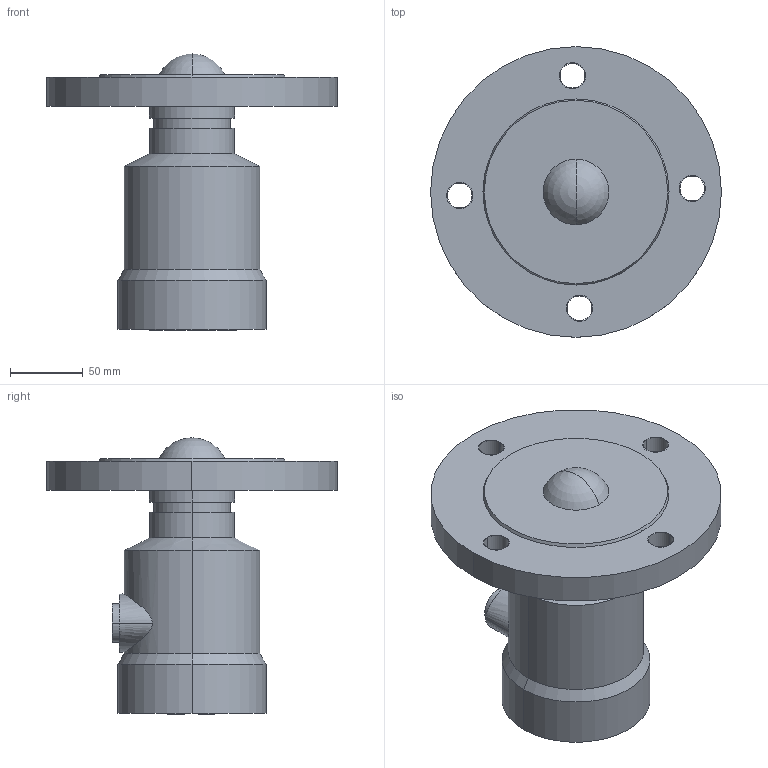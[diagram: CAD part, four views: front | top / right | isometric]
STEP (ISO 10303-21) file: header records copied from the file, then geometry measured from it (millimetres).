
FILE_DESCRIPTION((''),'2;1');
FILE_NAME('803','2025-12-26T14:51:53',('28740194'),(''),'CREO PARAMETRIC BY PTC INC, 2024063','CREO PARAMETRIC BY PTC INC, 2024063','');
FILE_SCHEMA(('CONFIG_CONTROL_DESIGN'));
Length unit declared in the file: millimetre
Products named in the file (1): 803
Bounding box: 200 x 200 x 190.11 mm (x, y, z)
Volume: 1610525.6 mm3; surface area: 138095.2 mm2
Topology: 1 solids, 5 shells, 415 faces, 1156 edges, 767 vertices
Faces by surface type: plane 371, cylinder 34, cone 6, extrusion 2, sphere 2
Entity records: 13251 total; most frequent: CARTESIAN_POINT 2471, ORIENTED_EDGE 2292, DIRECTION 2060, EDGE_CURVE 1154, VECTOR 1076, LINE 1074, VERTEX_POINT 767, AXIS2_PLACEMENT_3D 492
